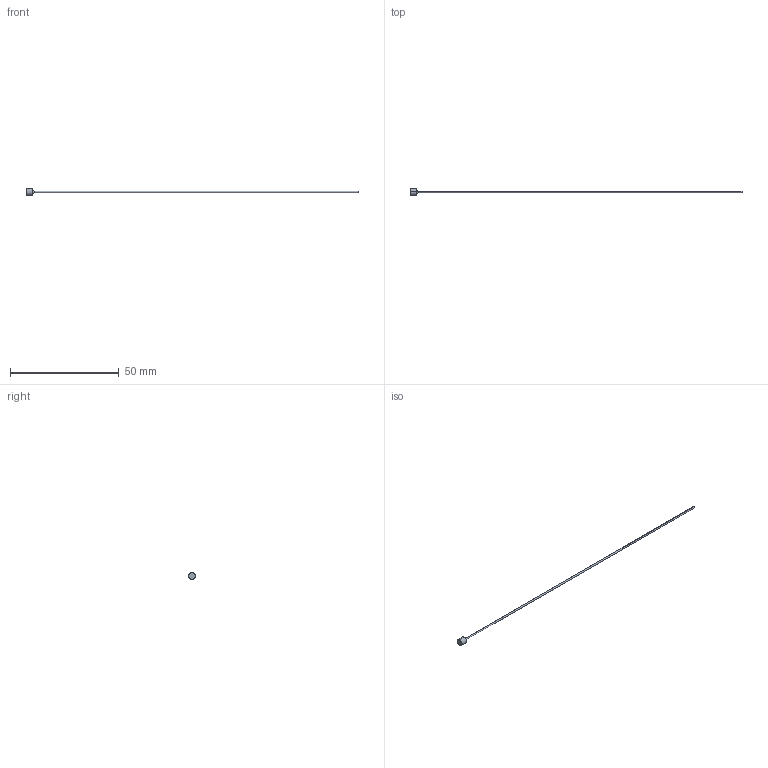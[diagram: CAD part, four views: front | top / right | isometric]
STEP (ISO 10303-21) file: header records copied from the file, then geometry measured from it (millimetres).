
FILE_DESCRIPTION (( 'STEP AP214' ), '1' );
FILE_NAME ('P3-6.STEP', '2020-03-11T12:06:44', ( '' ), ( '' ), 'SwSTEP 2.0', 'SolidWorks 2018', '' );
FILE_SCHEMA (( 'AUTOMOTIVE_DESIGN' ));
Length unit declared in the file: inch
Products named in the file (1): P3-6
Bounding box: 152.4 x 3.17 x 3.17 mm (x, y, z)
Volume: 97.9 mm3; surface area: 414.3 mm2
Topology: 1 solids, 1 shells, 13 faces, 24 edges, 14 vertices
Faces by surface type: cone 4, cylinder 4, plane 3, torus 2
Entity records: 366 total; most frequent: DIRECTION 68, CARTESIAN_POINT 52, ORIENTED_EDGE 48, AXIS2_PLACEMENT_3D 30, EDGE_CURVE 24, CIRCLE 16, EDGE_LOOP 14, VERTEX_POINT 14
